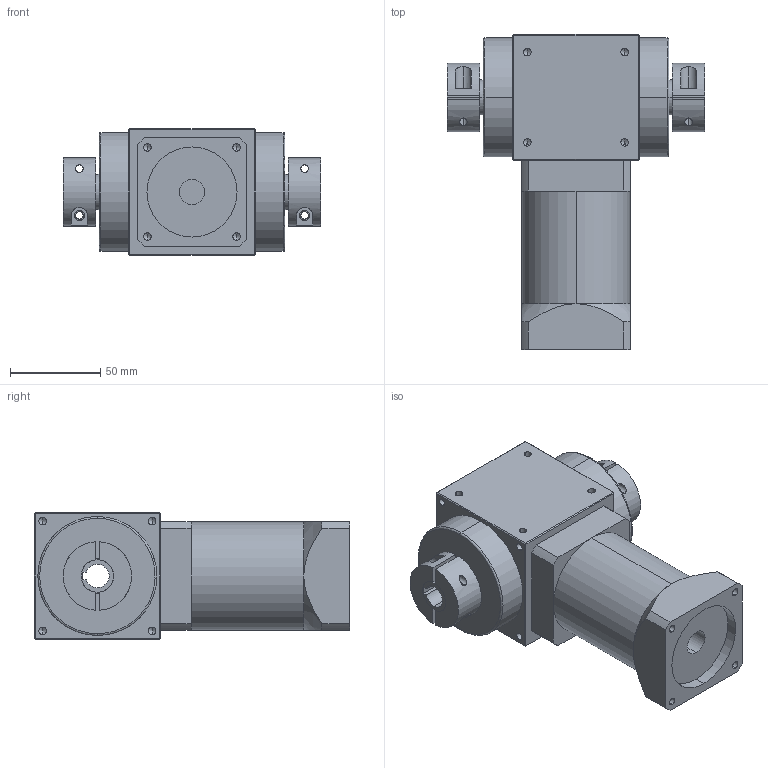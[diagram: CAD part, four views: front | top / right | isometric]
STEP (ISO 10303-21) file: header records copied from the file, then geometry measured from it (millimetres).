
FILE_DESCRIPTION (( 'STEP AP214' ), '1' );
FILE_NAME ('RXW070A-L2-2C-K--400W1.STEP', '2020-12-04T09:06:46', ( '微软用户' ), ( '微软中国' ), 'SwSTEP 2.0', 'SolidWorks 2014', '' );
FILE_SCHEMA (( 'AUTOMOTIVE_DESIGN' ));
Length unit declared in the file: millimetre
Products named in the file (2): RXW070A-L2-2C-K--400W1
Bounding box: 143 x 175 x 70 mm (x, y, z)
Volume: 778970.8 mm3; surface area: 84628.8 mm2
Topology: 5 solids, 5 shells, 259 faces, 620 edges, 352 vertices
Faces by surface type: cylinder 125, plane 78, cone 52, bspline 4
Entity records: 10534 total; most frequent: CARTESIAN_POINT 1825, DIRECTION 1244, ORIENTED_EDGE 1144, EDGE_CURVE 572, AXIS2_PLACEMENT_3D 475, VERTEX_POINT 352, EDGE_LOOP 314, LINE 294
